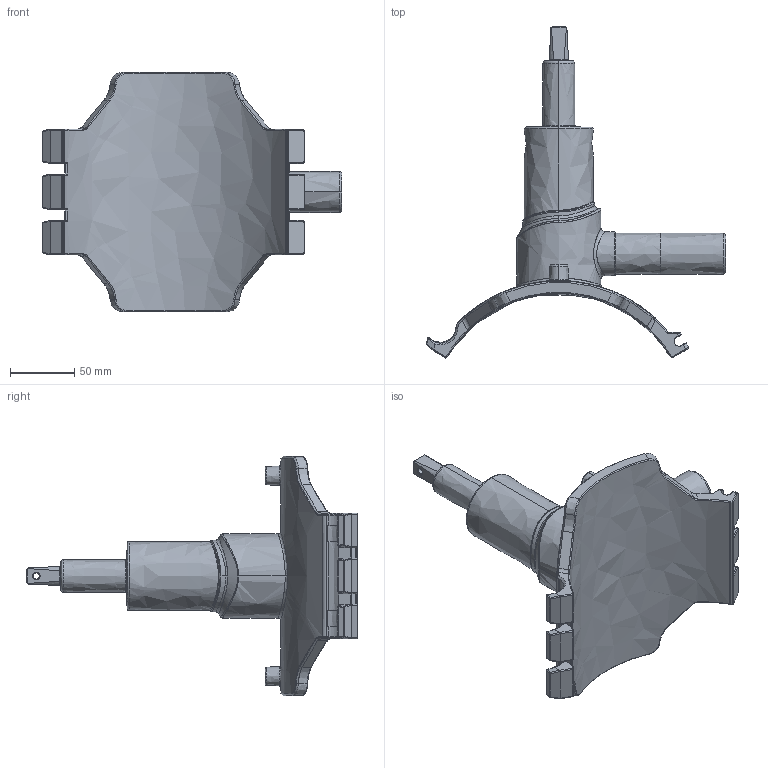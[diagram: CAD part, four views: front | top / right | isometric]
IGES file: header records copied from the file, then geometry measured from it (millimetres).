
Start section:  PTC IGES file: dav2_d200_32_01.igs
Global section: file name: dav2_d200_32_01.igs; native system: Creo Parametric by PTC Inc.; preprocessor: 2019030; author: demmerls; organization: Unknown; date: 20201126.144918; units: millimetre
Bounding box: 233.36 x 258.2 x 186 mm (x, y, z)
Surface area: 119369.9 mm2 (no closed solid volume)
Topology: 0 solids, 0 shells, 563 faces, 2736 edges, 2730 vertices
Faces by surface type: bspline 563
